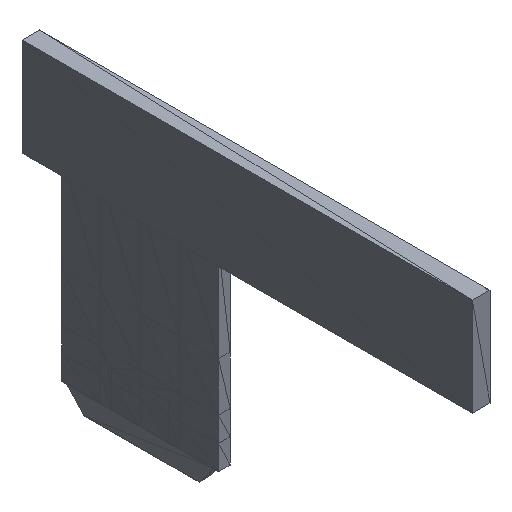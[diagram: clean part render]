
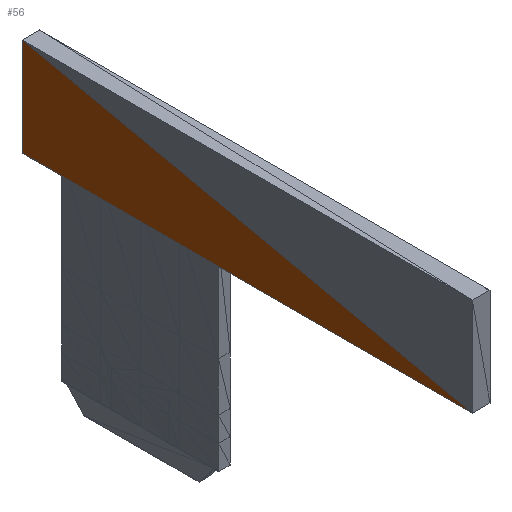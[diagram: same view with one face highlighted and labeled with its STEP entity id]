
A CAD part, isometric view. The second image highlights one B-rep face of the part: STEP entity #56.
In plain terms, the highlighted planar face has unit normal (1, 0, 0).
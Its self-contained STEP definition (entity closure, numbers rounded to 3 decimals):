
#56 = ADVANCED_FACE('',(#57),#71,.T.);
#57 = FACE_BOUND('',#58,.T.);
#58 = EDGE_LOOP('',(#59,#93,#120));
#59 = ORIENTED_EDGE('',*,*,#60,.T.);
#60 = EDGE_CURVE('',#61,#63,#65,.T.);
#61 = VERTEX_POINT('',#62);
#62 = CARTESIAN_POINT('',(-0.193,0.322,0.611)
  );
#63 = VERTEX_POINT('',#64);
#64 = CARTESIAN_POINT('',(-0.193,0.299,0.606)
  );
#65 = SURFACE_CURVE('',#66,(#70,#82),.PCURVE_S1.);
#66 = LINE('',#67,#68);
#67 = CARTESIAN_POINT('',(-0.193,0.322,0.611)
  );
#68 = VECTOR('',#69,1.);
#69 = DIRECTION('',(0.,-0.977,-0.212));
#70 = PCURVE('',#71,#76);
#71 = PLANE('',#72);
#72 = AXIS2_PLACEMENT_3D('',#73,#74,#75);
#73 = CARTESIAN_POINT('',(-0.193,0.312,0.607)
  );
#74 = DIRECTION('',(1.,0.,0.));
#75 = DIRECTION('',(-0.,0.,1.));
#76 = DEFINITIONAL_REPRESENTATION('',(#77),#81);
#77 = LINE('',#78,#79);
#78 = CARTESIAN_POINT('',(0.004,-0.01));
#79 = VECTOR('',#80,1.);
#80 = DIRECTION('',(-0.212,0.977));
#81 = ( GEOMETRIC_REPRESENTATION_CONTEXT(2) 
PARAMETRIC_REPRESENTATION_CONTEXT() REPRESENTATION_CONTEXT('2D SPACE',''
  ) );
#82 = PCURVE('',#83,#88);
#83 = PLANE('',#84);
#84 = AXIS2_PLACEMENT_3D('',#85,#86,#87);
#85 = CARTESIAN_POINT('',(-0.193,0.31,0.609)
  );
#86 = DIRECTION('',(1.,0.,0.));
#87 = DIRECTION('',(-0.,0.,1.));
#88 = DEFINITIONAL_REPRESENTATION('',(#89),#92);
#89 = B_SPLINE_CURVE_WITH_KNOTS('',1,(#90,#91),.UNSPECIFIED.,.F.,.F.,(2,
    2),(0.,0.024),.PIECEWISE_BEZIER_KNOTS.);
#90 = CARTESIAN_POINT('',(0.001,-0.013));
#91 = CARTESIAN_POINT('',(-0.004,0.01));
#92 = ( GEOMETRIC_REPRESENTATION_CONTEXT(2) 
PARAMETRIC_REPRESENTATION_CONTEXT() REPRESENTATION_CONTEXT('2D SPACE',''
  ) );
#93 = ORIENTED_EDGE('',*,*,#94,.T.);
#94 = EDGE_CURVE('',#63,#95,#97,.T.);
#95 = VERTEX_POINT('',#96);
#96 = CARTESIAN_POINT('',(-0.193,0.322,0.606)
  );
#97 = SURFACE_CURVE('',#98,(#102,#109),.PCURVE_S1.);
#98 = LINE('',#99,#100);
#99 = CARTESIAN_POINT('',(-0.193,0.299,0.606)
  );
#100 = VECTOR('',#101,1.);
#101 = DIRECTION('',(0.,1.,0.));
#102 = PCURVE('',#71,#103);
#103 = DEFINITIONAL_REPRESENTATION('',(#104),#108);
#104 = LINE('',#105,#106);
#105 = CARTESIAN_POINT('',(-0.001,0.013));
#106 = VECTOR('',#107,1.);
#107 = DIRECTION('',(0.,-1.));
#108 = ( GEOMETRIC_REPRESENTATION_CONTEXT(2) 
PARAMETRIC_REPRESENTATION_CONTEXT() REPRESENTATION_CONTEXT('2D SPACE',''
  ) );
#109 = PCURVE('',#110,#115);
#110 = PLANE('',#111);
#111 = AXIS2_PLACEMENT_3D('',#112,#113,#114);
#112 = CARTESIAN_POINT('',(-0.192,0.311,0.606
    ));
#113 = DIRECTION('',(0.,0.,1.));
#114 = DIRECTION('',(1.,0.,0.));
#115 = DEFINITIONAL_REPRESENTATION('',(#116),#119);
#116 = B_SPLINE_CURVE_WITH_KNOTS('',1,(#117,#118),.UNSPECIFIED.,.F.,.F.,
  (2,2),(0.,0.023),.PIECEWISE_BEZIER_KNOTS.);
#117 = CARTESIAN_POINT('',(0.,-0.011));
#118 = CARTESIAN_POINT('',(0.,0.012));
#119 = ( GEOMETRIC_REPRESENTATION_CONTEXT(2) 
PARAMETRIC_REPRESENTATION_CONTEXT() REPRESENTATION_CONTEXT('2D SPACE',''
  ) );
#120 = ORIENTED_EDGE('',*,*,#121,.T.);
#121 = EDGE_CURVE('',#95,#61,#122,.T.);
#122 = SURFACE_CURVE('',#123,(#127,#134),.PCURVE_S1.);
#123 = LINE('',#124,#125);
#124 = CARTESIAN_POINT('',(-0.193,0.322,0.606
    ));
#125 = VECTOR('',#126,1.);
#126 = DIRECTION('',(0.,0.,1.));
#127 = PCURVE('',#71,#128);
#128 = DEFINITIONAL_REPRESENTATION('',(#129),#133);
#129 = LINE('',#130,#131);
#130 = CARTESIAN_POINT('',(-0.001,-0.01));
#131 = VECTOR('',#132,1.);
#132 = DIRECTION('',(1.,0.));
#133 = ( GEOMETRIC_REPRESENTATION_CONTEXT(2) 
PARAMETRIC_REPRESENTATION_CONTEXT() REPRESENTATION_CONTEXT('2D SPACE',''
  ) );
#134 = PCURVE('',#135,#140);
#135 = PLANE('',#136);
#136 = AXIS2_PLACEMENT_3D('',#137,#138,#139);
#137 = CARTESIAN_POINT('',(-0.192,0.322,0.608
    ));
#138 = DIRECTION('',(0.,-1.,0.));
#139 = DIRECTION('',(-1.,0.,0.));
#140 = DEFINITIONAL_REPRESENTATION('',(#141),#144);
#141 = B_SPLINE_CURVE_WITH_KNOTS('',1,(#142,#143),.UNSPECIFIED.,.F.,.F.,
  (2,2),(0.,0.005),.PIECEWISE_BEZIER_KNOTS.);
#142 = CARTESIAN_POINT('',(0.,0.003));
#143 = CARTESIAN_POINT('',(0.,-0.002));
#144 = ( GEOMETRIC_REPRESENTATION_CONTEXT(2) 
PARAMETRIC_REPRESENTATION_CONTEXT() REPRESENTATION_CONTEXT('2D SPACE',''
  ) );
